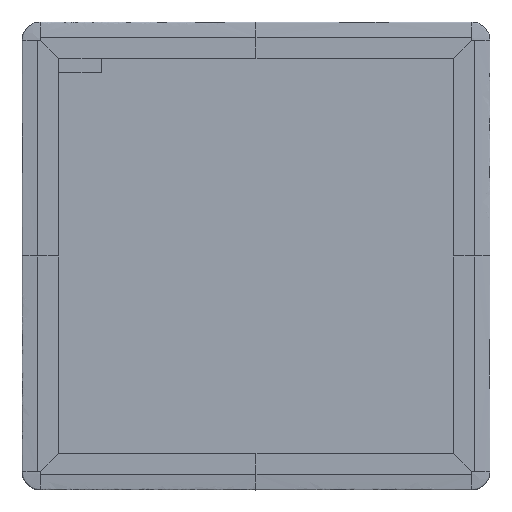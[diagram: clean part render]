
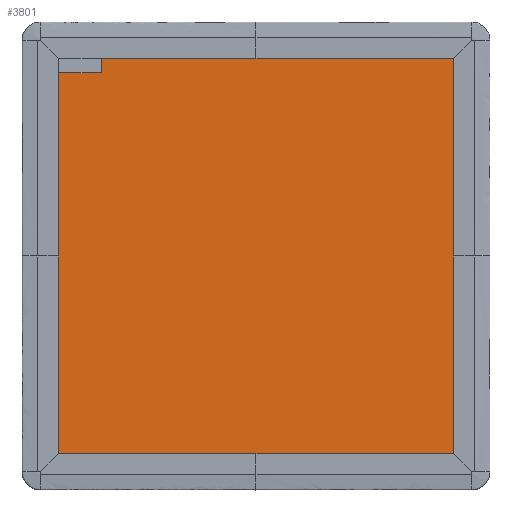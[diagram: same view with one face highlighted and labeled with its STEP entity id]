
A CAD part, front view. The second image highlights one B-rep face of the part: STEP entity #3801.
In plain terms, the highlighted planar face has unit normal (0, -1, 0).
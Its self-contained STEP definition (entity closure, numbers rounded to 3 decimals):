
#1834=B_SPLINE_CURVE_WITH_KNOTS('',1,(#57061,#57062),.UNSPECIFIED.,.F.,.F.,
(2,2),(0.,138.),.UNSPECIFIED.);
#1835=B_SPLINE_CURVE_WITH_KNOTS('',1,(#57063,#57064),.UNSPECIFIED.,.F.,.F.,
(2,2),(0.,138.),.UNSPECIFIED.);
#1836=B_SPLINE_CURVE_WITH_KNOTS('',1,(#57065,#57066),.UNSPECIFIED.,.F.,.F.,
(2,2),(-276.,-138.),.UNSPECIFIED.);
#1837=B_SPLINE_CURVE_WITH_KNOTS('',1,(#57067,#57068),.UNSPECIFIED.,.F.,.F.,
(2,2),(0.,10.),.UNSPECIFIED.);
#1838=B_SPLINE_CURVE_WITH_KNOTS('',1,(#57069,#57070),.UNSPECIFIED.,.F.,.F.,
(2,2),(0.,30.),.UNSPECIFIED.);
#1839=B_SPLINE_CURVE_WITH_KNOTS('',1,(#57071,#57072),.UNSPECIFIED.,.F.,.F.,
(2,2),(-266.,-138.),.UNSPECIFIED.);
#1840=B_SPLINE_CURVE_WITH_KNOTS('',1,(#57073,#57074),.UNSPECIFIED.,.F.,.F.,
(2,2),(-276.,-138.),.UNSPECIFIED.);
#1841=B_SPLINE_CURVE_WITH_KNOTS('',1,(#57075,#57076),.UNSPECIFIED.,.F.,.F.,
(2,2),(-276.,-138.),.UNSPECIFIED.);
#1842=B_SPLINE_CURVE_WITH_KNOTS('',1,(#57077,#57078),.UNSPECIFIED.,.F.,.F.,
(2,2),(30.,138.),.UNSPECIFIED.);
#1843=B_SPLINE_CURVE_WITH_KNOTS('',1,(#57079,#57080),.UNSPECIFIED.,.F.,.F.,
(2,2),(0.,138.),.UNSPECIFIED.);
#3801=ADVANCED_FACE('',(#5174),#25373,.T.);
#5174=FACE_OUTER_BOUND('',#6598,.T.);
#6598=EDGE_LOOP('',(#12862,#12863,#12864,#12865,#12866,#12867,#12868,#12869,
#12870,#12871));
#12862=ORIENTED_EDGE('',*,*,#18665,.F.);
#12863=ORIENTED_EDGE('',*,*,#18666,.T.);
#12864=ORIENTED_EDGE('',*,*,#18670,.F.);
#12865=ORIENTED_EDGE('',*,*,#18661,.T.);
#12866=ORIENTED_EDGE('',*,*,#18667,.F.);
#12867=ORIENTED_EDGE('',*,*,#18662,.T.);
#12868=ORIENTED_EDGE('',*,*,#18668,.F.);
#12869=ORIENTED_EDGE('',*,*,#18663,.T.);
#12870=ORIENTED_EDGE('',*,*,#18669,.F.);
#12871=ORIENTED_EDGE('',*,*,#18664,.F.);
#18661=EDGE_CURVE('',#23946,#23944,#1834,.T.);
#18662=EDGE_CURVE('',#23943,#23960,#1835,.T.);
#18663=EDGE_CURVE('',#23947,#23966,#1836,.T.);
#18664=EDGE_CURVE('',#23948,#23949,#1837,.T.);
#18665=EDGE_CURVE('',#23950,#23948,#1838,.T.);
#18666=EDGE_CURVE('',#23950,#23979,#1839,.T.);
#18667=EDGE_CURVE('',#23943,#23944,#1840,.T.);
#18668=EDGE_CURVE('',#23947,#23960,#1841,.T.);
#18669=EDGE_CURVE('',#23949,#23966,#1842,.T.);
#18670=EDGE_CURVE('',#23946,#23979,#1843,.T.);
#23943=VERTEX_POINT('',#56962);
#23944=VERTEX_POINT('',#56963);
#23946=VERTEX_POINT('',#56965);
#23947=VERTEX_POINT('',#56966);
#23948=VERTEX_POINT('',#56967);
#23949=VERTEX_POINT('',#56968);
#23950=VERTEX_POINT('',#56969);
#23960=VERTEX_POINT('',#56979);
#23966=VERTEX_POINT('',#56985);
#23979=VERTEX_POINT('',#56998);
#25373=PLANE('',#26820);
#26820=AXIS2_PLACEMENT_3D('',#56270,#27515,$);
#27515=DIRECTION('',(0.,-1.,0.));
#56270=CARTESIAN_POINT('',(-138.,-32.501,-138.084));
#56962=CARTESIAN_POINT('',(138.,-32.501,-138.084));
#56963=CARTESIAN_POINT('',(0.,-32.501,-138.084));
#56965=CARTESIAN_POINT('',(-138.,-32.501,-138.084));
#56966=CARTESIAN_POINT('',(138.,-32.501,137.916));
#56967=CARTESIAN_POINT('',(-108.,-32.501,127.916));
#56968=CARTESIAN_POINT('',(-108.,-32.501,137.916));
#56969=CARTESIAN_POINT('',(-138.,-32.501,127.916));
#56979=CARTESIAN_POINT('',(138.,-32.501,-0.084));
#56985=CARTESIAN_POINT('',(0.,-32.501,137.916));
#56998=CARTESIAN_POINT('',(-138.,-32.501,-0.084));
#57061=CARTESIAN_POINT('',(-138.,-32.501,-138.084));
#57062=CARTESIAN_POINT('',(0.,-32.501,-138.084));
#57063=CARTESIAN_POINT('',(138.,-32.501,-138.084));
#57064=CARTESIAN_POINT('',(138.,-32.501,-0.084));
#57065=CARTESIAN_POINT('',(138.,-32.501,137.916));
#57066=CARTESIAN_POINT('',(0.,-32.501,137.916));
#57067=CARTESIAN_POINT('',(-108.,-32.501,127.916));
#57068=CARTESIAN_POINT('',(-108.,-32.501,137.916));
#57069=CARTESIAN_POINT('',(-138.,-32.501,127.916));
#57070=CARTESIAN_POINT('',(-108.,-32.501,127.916));
#57071=CARTESIAN_POINT('',(-138.,-32.501,127.916));
#57072=CARTESIAN_POINT('',(-138.,-32.501,-0.084));
#57073=CARTESIAN_POINT('',(138.,-32.501,-138.084));
#57074=CARTESIAN_POINT('',(0.,-32.501,-138.084));
#57075=CARTESIAN_POINT('',(138.,-32.501,137.916));
#57076=CARTESIAN_POINT('',(138.,-32.501,-0.084));
#57077=CARTESIAN_POINT('',(-108.,-32.501,137.916));
#57078=CARTESIAN_POINT('',(0.,-32.501,137.916));
#57079=CARTESIAN_POINT('',(-138.,-32.501,-138.084));
#57080=CARTESIAN_POINT('',(-138.,-32.501,-0.084));
